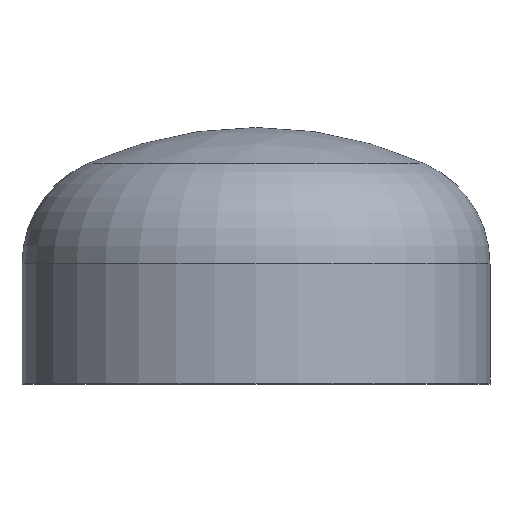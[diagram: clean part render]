
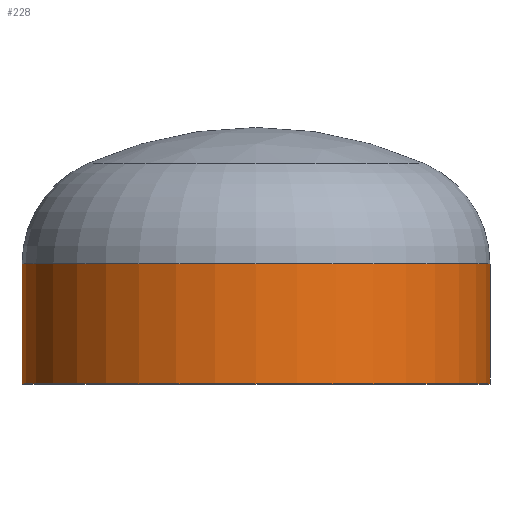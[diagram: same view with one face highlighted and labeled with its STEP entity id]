
A CAD part, top view. The second image highlights one B-rep face of the part: STEP entity #228.
In plain terms, the highlighted cylindrical face has radius 136.5 mm (diameter 273 mm), a partial arc.
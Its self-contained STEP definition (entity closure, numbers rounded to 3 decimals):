
#2 = AXIS2_PLACEMENT_3D ( 'NONE', #381, #252, #406 ) ;
#19 = ORIENTED_EDGE ( 'NONE', *, *, #393, .F. ) ;
#20 = AXIS2_PLACEMENT_3D ( 'NONE', #217, #190, #219 ) ;
#58 = AXIS2_PLACEMENT_3D ( 'NONE', #204, #199, #212 ) ;
#61 = EDGE_CURVE ( 'NONE', #146, #394, #241, .T. ) ;
#64 = VECTOR ( 'NONE', #90, 1000. ) ;
#65 = ORIENTED_EDGE ( 'NONE', *, *, #366, .F. ) ;
#90 = DIRECTION ( 'NONE',  ( 0., -1., 0. ) ) ;
#92 = VERTEX_POINT ( 'NONE', #290 ) ;
#97 = CARTESIAN_POINT ( 'NONE',  ( -136.5, 70., 0. ) ) ;
#133 = CARTESIAN_POINT ( 'NONE',  ( -136.5, 0., 0. ) ) ;
#146 = VERTEX_POINT ( 'NONE', #399 ) ;
#161 = VECTOR ( 'NONE', #316, 1000. ) ;
#190 = DIRECTION ( 'NONE',  ( 0., -1., 0. ) ) ;
#195 = ORIENTED_EDGE ( 'NONE', *, *, #61, .T. ) ;
#199 = DIRECTION ( 'NONE',  ( 0., -1., 0. ) ) ;
#204 = CARTESIAN_POINT ( 'NONE',  ( 0., 70., 0. ) ) ;
#212 = DIRECTION ( 'NONE',  ( 1., 0., 0. ) ) ;
#215 = CARTESIAN_POINT ( 'NONE',  ( 136.5, 0., 0. ) ) ;
#217 = CARTESIAN_POINT ( 'NONE',  ( 0., 0., 0. ) ) ;
#219 = DIRECTION ( 'NONE',  ( 1., 0., 0. ) ) ;
#224 = CYLINDRICAL_SURFACE ( 'NONE', #20, 136.5 ) ;
#227 = ORIENTED_EDGE ( 'NONE', *, *, #369, .T. ) ;
#228 = ADVANCED_FACE ( 'NONE', ( #410 ), #224, .T. ) ;
#230 = VERTEX_POINT ( 'NONE', #133 ) ;
#241 = CIRCLE ( 'NONE', #58, 136.5 ) ;
#252 = DIRECTION ( 'NONE',  ( 0., -1., 0. ) ) ;
#261 = LINE ( 'NONE', #215, #161 ) ;
#267 = LINE ( 'NONE', #397, #64 ) ;
#290 = CARTESIAN_POINT ( 'NONE',  ( 136.5, 0., 0. ) ) ;
#316 = DIRECTION ( 'NONE',  ( 0., -1., 0. ) ) ;
#324 = CIRCLE ( 'NONE', #2, 136.5 ) ;
#330 = EDGE_LOOP ( 'NONE', ( #195, #227, #65, #19 ) ) ;
#366 = EDGE_CURVE ( 'NONE', #92, #230, #324, .T. ) ;
#369 = EDGE_CURVE ( 'NONE', #394, #230, #267, .T. ) ;
#381 = CARTESIAN_POINT ( 'NONE',  ( 0., 0., 0. ) ) ;
#393 = EDGE_CURVE ( 'NONE', #146, #92, #261, .T. ) ;
#394 = VERTEX_POINT ( 'NONE', #97 ) ;
#397 = CARTESIAN_POINT ( 'NONE',  ( -136.5, 0., 0. ) ) ;
#399 = CARTESIAN_POINT ( 'NONE',  ( 136.5, 70., 0. ) ) ;
#406 = DIRECTION ( 'NONE',  ( 1., 0., 0. ) ) ;
#410 = FACE_OUTER_BOUND ( 'NONE', #330, .T. ) ;
